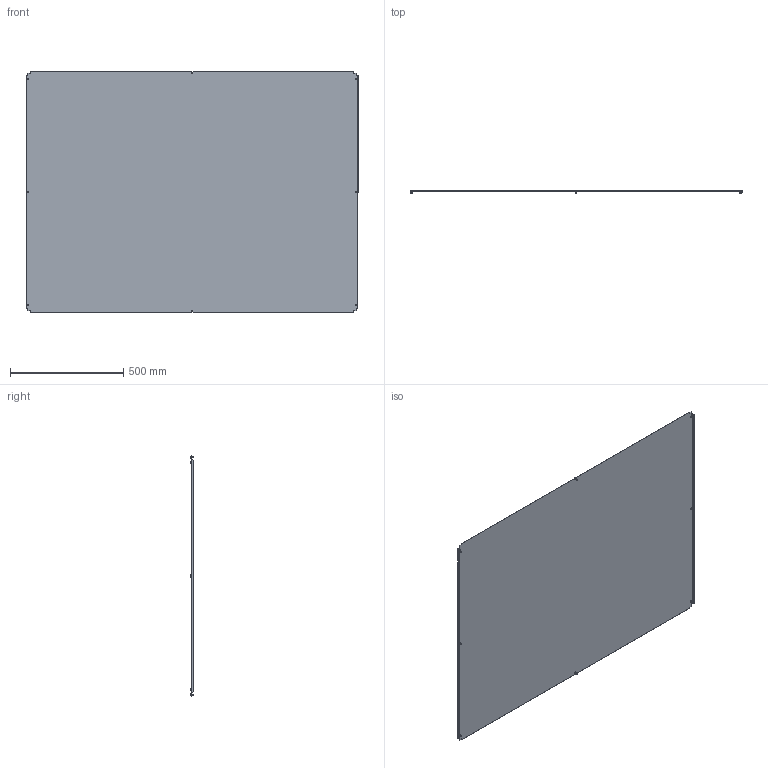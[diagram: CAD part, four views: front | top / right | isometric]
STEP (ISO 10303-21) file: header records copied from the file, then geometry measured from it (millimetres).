
FILE_DESCRIPTION (( 'STEP AP203' ), '1' );
FILE_NAME ('R5N1BP1612.STEP', '2025-02-21T14:04:38', ( '' ), ( '' ), 'SwSTEP 2.0', 'SolidWorks 2022', '' );
FILE_SCHEMA (( 'CONFIG_CONTROL_DESIGN' ));
Length unit declared in the file: millimetre
Products named in the file (3): R5N1BP1612; RB.1923.00.00.0_-39; M5x12 DIN 7500 C Torx Zinc_stright
Assembly tree (9 placements, depth 2):
  R5N1BP1612
    RB.1923.00.00.0_-39
    M5x12 DIN 7500 C Torx Zinc_stright  x8
Bounding box: 1468 x 15.56 x 1062 mm (x, y, z)
Volume: 2363363.3 mm3; surface area: 3157927 mm2
Topology: 9 solids, 9 shells, 206 faces, 468 edges, 288 vertices
Faces by surface type: plane 126, cylinder 32, torus 16, cone 16, sphere 8, bspline 8
Full cylindrical faces by diameter (mm): 5 x8, 9.5 x8
Entity records: 3641 total; most frequent: CARTESIAN_POINT 724, DIRECTION 496, ORIENTED_EDGE 496, EDGE_CURVE 248, VECTOR 196, LINE 196, VERTEX_POINT 166, AXIS2_PLACEMENT_3D 150
